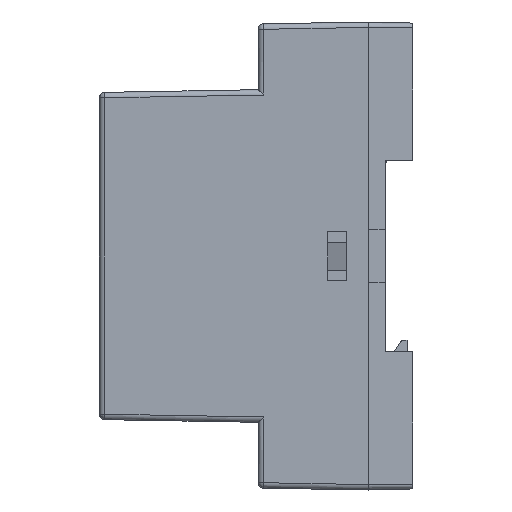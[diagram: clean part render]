
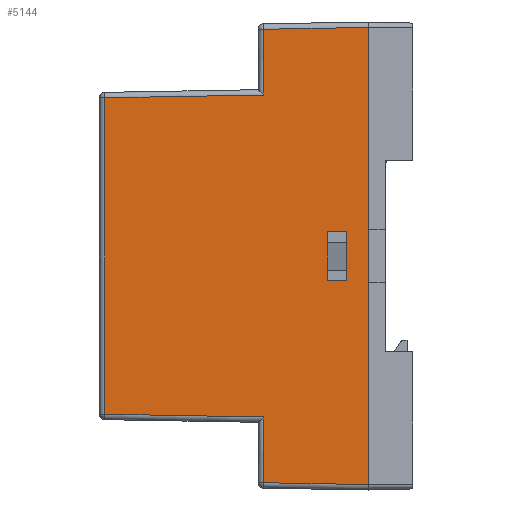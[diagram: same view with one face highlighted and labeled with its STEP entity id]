
A CAD part, left-side view. The second image highlights one B-rep face of the part: STEP entity #5144.
In plain terms, the highlighted planar face has unit normal (-1, 0.009, 0).
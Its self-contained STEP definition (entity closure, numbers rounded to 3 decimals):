
#236 = CARTESIAN_POINT ( 'NONE',  ( -52.515, 4., -4.5 ) ) ;
#362 = AXIS2_PLACEMENT_3D ( 'NONE', #13771, #14013, #4012 ) ;
#397 = VERTEX_POINT ( 'NONE', #9384 ) ;
#678 = CARTESIAN_POINT ( 'NONE',  ( -52.55, -0.017, 42.05 ) ) ;
#689 = VECTOR ( 'NONE', #11745, 1000. ) ;
#818 = EDGE_LOOP ( 'NONE', ( #8794, #7853, #4392, #15063 ) ) ;
#940 = DIRECTION ( 'NONE',  ( 0., 0., -1. ) ) ;
#966 = VERTEX_POINT ( 'NONE', #236 ) ;
#1064 = LINE ( 'NONE', #3427, #15608 ) ;
#1439 = EDGE_CURVE ( 'NONE', #966, #6039, #2958, .T. ) ;
#1513 = CARTESIAN_POINT ( 'NONE',  ( -52.515, 4., 4.5 ) ) ;
#1655 = LINE ( 'NONE', #11417, #11971 ) ;
#1758 = VECTOR ( 'NONE', #1862, 1000. ) ;
#1862 = DIRECTION ( 'NONE',  ( -0.009, -1., -0.017 ) ) ;
#1912 = EDGE_CURVE ( 'NONE', #6676, #3148, #6146, .T. ) ;
#2027 = VERTEX_POINT ( 'NONE', #4715 ) ;
#2037 = CARTESIAN_POINT ( 'NONE',  ( -52.55, 0., 4.5 ) ) ;
#2506 = CARTESIAN_POINT ( 'NONE',  ( -52.539, 1.274, -29.932 ) ) ;
#2871 = EDGE_CURVE ( 'NONE', #4059, #966, #7599, .T. ) ;
#2939 = VERTEX_POINT ( 'NONE', #4072 ) ;
#2958 = LINE ( 'NONE', #7875, #12321 ) ;
#3120 = CARTESIAN_POINT ( 'NONE',  ( -52.552, -0.228, 29.958 ) ) ;
#3125 = LINE ( 'NONE', #6974, #12447 ) ;
#3148 = VERTEX_POINT ( 'NONE', #3765 ) ;
#3245 = VECTOR ( 'NONE', #3910, 1000. ) ;
#3277 = DIRECTION ( 'NONE',  ( 0.009, 1., -0.017 ) ) ;
#3326 = ORIENTED_EDGE ( 'NONE', *, *, #12952, .T. ) ;
#3427 = CARTESIAN_POINT ( 'NONE',  ( -52.381, 19.309, 43.05 ) ) ;
#3765 = CARTESIAN_POINT ( 'NONE',  ( -52.381, 19.309, -41.713 ) ) ;
#3862 = FACE_OUTER_BOUND ( 'NONE', #14744, .T. ) ;
#3910 = DIRECTION ( 'NONE',  ( 0., 0., -1. ) ) ;
#4012 = DIRECTION ( 'NONE',  ( -0.009, -1., 0. ) ) ;
#4059 = VERTEX_POINT ( 'NONE', #1513 ) ;
#4066 = LINE ( 'NONE', #12915, #1758 ) ;
#4072 = CARTESIAN_POINT ( 'NONE',  ( -52.127, 48.509, -29.108 ) ) ;
#4292 = EDGE_CURVE ( 'NONE', #4379, #2939, #3125, .T. ) ;
#4312 = CARTESIAN_POINT ( 'NONE',  ( -52.55, 0., 42.05 ) ) ;
#4379 = VERTEX_POINT ( 'NONE', #6106 ) ;
#4392 = ORIENTED_EDGE ( 'NONE', *, *, #7671, .T. ) ;
#4715 = CARTESIAN_POINT ( 'NONE',  ( -52.381, 19.309, 29.617 ) ) ;
#5144 = ADVANCED_FACE ( 'NONE', ( #12618, #3862 ), #7621, .T. ) ;
#5646 = VERTEX_POINT ( 'NONE', #14162 ) ;
#6039 = VERTEX_POINT ( 'NONE', #13028 ) ;
#6106 = CARTESIAN_POINT ( 'NONE',  ( -52.127, 48.509, 29.108 ) ) ;
#6146 = LINE ( 'NONE', #13423, #6619 ) ;
#6567 = DIRECTION ( 'NONE',  ( 0.009, 1., 0. ) ) ;
#6619 = VECTOR ( 'NONE', #10890, 1000. ) ;
#6676 = VERTEX_POINT ( 'NONE', #8976 ) ;
#6800 = DIRECTION ( 'NONE',  ( 0., 0., -1. ) ) ;
#6868 = LINE ( 'NONE', #678, #9055 ) ;
#6904 = ORIENTED_EDGE ( 'NONE', *, *, #7151, .T. ) ;
#6949 = DIRECTION ( 'NONE',  ( 0., 0., -1. ) ) ;
#6974 = CARTESIAN_POINT ( 'NONE',  ( -52.127, 48.509, 43.05 ) ) ;
#7151 = EDGE_CURVE ( 'NONE', #2027, #4379, #7874, .T. ) ;
#7475 = EDGE_CURVE ( 'NONE', #11690, #397, #1655, .T. ) ;
#7599 = LINE ( 'NONE', #10023, #3245 ) ;
#7621 = PLANE ( 'NONE',  #362 ) ;
#7671 = EDGE_CURVE ( 'NONE', #6039, #12436, #10581, .T. ) ;
#7853 = ORIENTED_EDGE ( 'NONE', *, *, #1439, .T. ) ;
#7874 = LINE ( 'NONE', #3120, #689 ) ;
#7875 = CARTESIAN_POINT ( 'NONE',  ( -52.55, 0., -4.5 ) ) ;
#8257 = CARTESIAN_POINT ( 'NONE',  ( -52.485, 7.5, 43.05 ) ) ;
#8794 = ORIENTED_EDGE ( 'NONE', *, *, #2871, .T. ) ;
#8976 = CARTESIAN_POINT ( 'NONE',  ( -52.381, 19.309, -29.617 ) ) ;
#9055 = VECTOR ( 'NONE', #3277, 1000. ) ;
#9130 = ORIENTED_EDGE ( 'NONE', *, *, #4292, .T. ) ;
#9384 = CARTESIAN_POINT ( 'NONE',  ( -52.55, 0., -42.05 ) ) ;
#9843 = VECTOR ( 'NONE', #14164, 1000. ) ;
#10023 = CARTESIAN_POINT ( 'NONE',  ( -52.515, 4., 43.05 ) ) ;
#10569 = EDGE_CURVE ( 'NONE', #2939, #6676, #12183, .T. ) ;
#10581 = LINE ( 'NONE', #8257, #10656 ) ;
#10656 = VECTOR ( 'NONE', #14179, 1000. ) ;
#10752 = ORIENTED_EDGE ( 'NONE', *, *, #1912, .T. ) ;
#10890 = DIRECTION ( 'NONE',  ( 0., 0., -1. ) ) ;
#11282 = VECTOR ( 'NONE', #12269, 1000. ) ;
#11417 = CARTESIAN_POINT ( 'NONE',  ( -52.55, 0., 43.05 ) ) ;
#11690 = VERTEX_POINT ( 'NONE', #4312 ) ;
#11709 = LINE ( 'NONE', #2037, #9843 ) ;
#11745 = DIRECTION ( 'NONE',  ( 0.009, 1., -0.017 ) ) ;
#11781 = ORIENTED_EDGE ( 'NONE', *, *, #15416, .T. ) ;
#11971 = VECTOR ( 'NONE', #6800, 1000. ) ;
#12183 = LINE ( 'NONE', #2506, #11282 ) ;
#12269 = DIRECTION ( 'NONE',  ( -0.009, -1., -0.017 ) ) ;
#12321 = VECTOR ( 'NONE', #6567, 1000. ) ;
#12436 = VERTEX_POINT ( 'NONE', #13455 ) ;
#12447 = VECTOR ( 'NONE', #940, 1000. ) ;
#12618 = FACE_BOUND ( 'NONE', #818, .T. ) ;
#12891 = ORIENTED_EDGE ( 'NONE', *, *, #13312, .T. ) ;
#12898 = ORIENTED_EDGE ( 'NONE', *, *, #10569, .T. ) ;
#12915 = CARTESIAN_POINT ( 'NONE',  ( -52.537, 1.485, -42.024 ) ) ;
#12952 = EDGE_CURVE ( 'NONE', #5646, #2027, #1064, .T. ) ;
#13028 = CARTESIAN_POINT ( 'NONE',  ( -52.485, 7.5, -4.5 ) ) ;
#13312 = EDGE_CURVE ( 'NONE', #3148, #397, #4066, .T. ) ;
#13423 = CARTESIAN_POINT ( 'NONE',  ( -52.381, 19.309, 43.05 ) ) ;
#13455 = CARTESIAN_POINT ( 'NONE',  ( -52.485, 7.5, 4.5 ) ) ;
#13511 = ORIENTED_EDGE ( 'NONE', *, *, #7475, .F. ) ;
#13771 = CARTESIAN_POINT ( 'NONE',  ( -52.55, 0., 43.05 ) ) ;
#14013 = DIRECTION ( 'NONE',  ( -1., 0.009, 0. ) ) ;
#14162 = CARTESIAN_POINT ( 'NONE',  ( -52.381, 19.309, 41.713 ) ) ;
#14164 = DIRECTION ( 'NONE',  ( -0.009, -1., 0. ) ) ;
#14179 = DIRECTION ( 'NONE',  ( 0., 0., 1. ) ) ;
#14744 = EDGE_LOOP ( 'NONE', ( #10752, #12891, #13511, #11781, #3326, #6904, #9130, #12898 ) ) ;
#15063 = ORIENTED_EDGE ( 'NONE', *, *, #15827, .T. ) ;
#15416 = EDGE_CURVE ( 'NONE', #11690, #5646, #6868, .T. ) ;
#15608 = VECTOR ( 'NONE', #6949, 1000. ) ;
#15827 = EDGE_CURVE ( 'NONE', #12436, #4059, #11709, .T. ) ;
